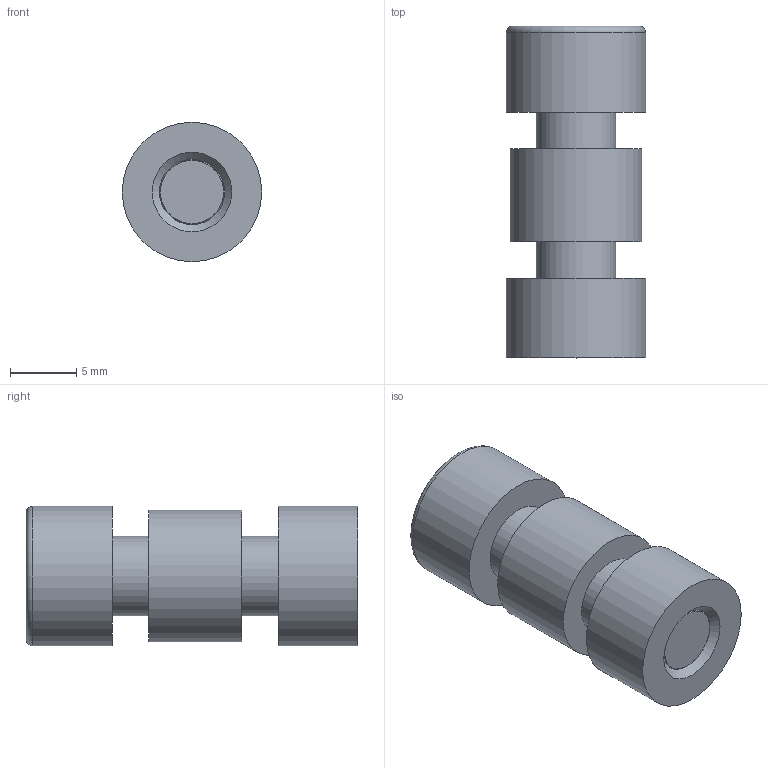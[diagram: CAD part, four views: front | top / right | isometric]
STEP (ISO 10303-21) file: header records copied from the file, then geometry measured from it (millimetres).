
FILE_DESCRIPTION( ( 'STEP AP203' ), '1' );
FILE_NAME( 'C:/Temp/Ganter_Step_05_03_2020/data/3_7/511_1/gn_511_1_s/Swivel clamp mounting GN 511.1-M6-25-S.stp', '2020-03-12T14:38:02', ( 'License CC BY-ND 4.0' ), ( 'CADENAS' ), ' ', 'PARTsolutions', ' ' );
FILE_SCHEMA( ( 'CONFIG_CONTROL_DESIGN' ) );
Length unit declared in the file: millimetre
Products named in the file (1): _Swivel clamp mounting GN 511.1-M6-25-S
Bounding box: 10.5 x 25 x 10.5 mm (x, y, z)
Volume: 1698.1 mm3; surface area: 1170.5 mm2
Topology: 1 solids, 1 shells, 23 faces, 44 edges, 29 vertices
Faces by surface type: plane 14, cylinder 6, cone 2, torus 1
Full cylindrical faces by diameter (mm): 4.917 x1, 6 x2, 9.9 x1, 10.5 x2
Entity records: 566 total; most frequent: DIRECTION 96, CARTESIAN_POINT 84, ORIENTED_EDGE 66, AXIS2_PLACEMENT_3D 39, EDGE_LOOP 38, EDGE_CURVE 33, FACE_OUTER_BOUND 30, VERTEX_POINT 27
